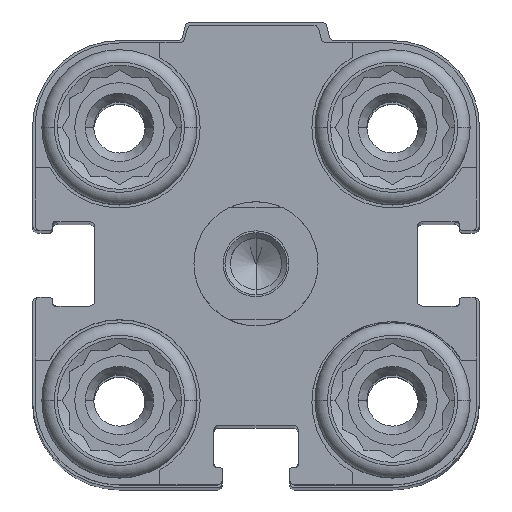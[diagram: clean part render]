
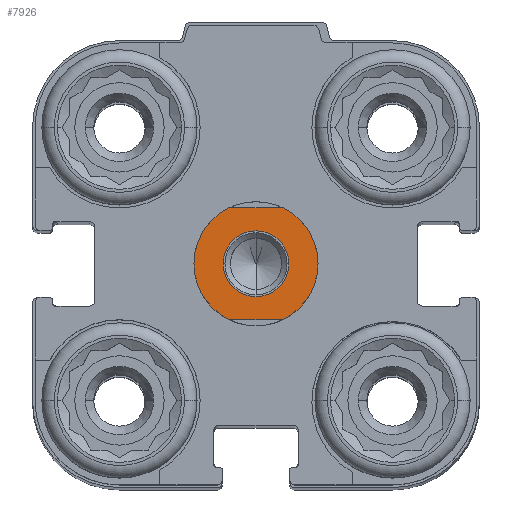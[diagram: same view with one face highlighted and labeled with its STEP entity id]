
A CAD part, top view. The second image highlights one B-rep face of the part: STEP entity #7926.
In plain terms, the highlighted planar face has unit normal (0, 0, 1).
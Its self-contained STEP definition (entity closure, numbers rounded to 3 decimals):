
#216 = CARTESIAN_POINT ( 'NONE',  ( -5., 0., 4.5 ) ) ;
#471 = DIRECTION ( 'NONE',  ( 0., 1., 0. ) ) ;
#1323 = AXIS2_PLACEMENT_3D ( 'NONE', #11532, #5801, #5710 ) ;
#1527 = DIRECTION ( 'NONE',  ( 0., 0., -1. ) ) ;
#1751 = CARTESIAN_POINT ( 'NONE',  ( 0., 0., 4.5 ) ) ;
#1976 = VERTEX_POINT ( 'NONE', #9900 ) ;
#2141 = ORIENTED_EDGE ( 'NONE', *, *, #11829, .F. ) ;
#2255 = ORIENTED_EDGE ( 'NONE', *, *, #16121, .F. ) ;
#2440 = DIRECTION ( 'NONE',  ( 0., 0., -1. ) ) ;
#2494 = CARTESIAN_POINT ( 'NONE',  ( 2.179, 4.5, 4.5 ) ) ;
#2539 = VECTOR ( 'NONE', #16942, 1000. ) ;
#3282 = VERTEX_POINT ( 'NONE', #3972 ) ;
#3403 = CARTESIAN_POINT ( 'NONE',  ( 0., 0., 4.5 ) ) ;
#3542 = AXIS2_PLACEMENT_3D ( 'NONE', #3403, #5908, #471 ) ;
#3760 = ORIENTED_EDGE ( 'NONE', *, *, #6103, .T. ) ;
#3765 = AXIS2_PLACEMENT_3D ( 'NONE', #14398, #12973, #18779 ) ;
#3972 = CARTESIAN_POINT ( 'NONE',  ( -2.179, -4.5, 4.5 ) ) ;
#4130 = ORIENTED_EDGE ( 'NONE', *, *, #18015, .F. ) ;
#4920 = CARTESIAN_POINT ( 'NONE',  ( -2.179, 4.5, 4.5 ) ) ;
#4981 = CIRCLE ( 'NONE', #1323, 5. ) ;
#5321 = CARTESIAN_POINT ( 'NONE',  ( 9., -4.5, 4.5 ) ) ;
#5516 = CARTESIAN_POINT ( 'NONE',  ( 2.179, -4.5, 4.5 ) ) ;
#5660 = ORIENTED_EDGE ( 'NONE', *, *, #16828, .F. ) ;
#5710 = DIRECTION ( 'NONE',  ( -1., 0., 0. ) ) ;
#5801 = DIRECTION ( 'NONE',  ( 0., 0., -1. ) ) ;
#5908 = DIRECTION ( 'NONE',  ( 0., 0., -1. ) ) ;
#5996 = CIRCLE ( 'NONE', #17566, 5. ) ;
#6103 = EDGE_CURVE ( 'NONE', #8180, #1976, #9454, .T. ) ;
#6249 = CIRCLE ( 'NONE', #6553, 5. ) ;
#6354 = ORIENTED_EDGE ( 'NONE', *, *, #15187, .F. ) ;
#6553 = AXIS2_PLACEMENT_3D ( 'NONE', #14609, #1527, #14329 ) ;
#7358 = EDGE_LOOP ( 'NONE', ( #3760, #13251 ) ) ;
#7524 = FACE_OUTER_BOUND ( 'NONE', #10046, .T. ) ;
#7720 = DIRECTION ( 'NONE',  ( -1., 0., 0. ) ) ;
#7926 = ADVANCED_FACE ( 'NONE', ( #7524, #8860 ), #16380, .F. ) ;
#8180 = VERTEX_POINT ( 'NONE', #9583 ) ;
#8860 = FACE_BOUND ( 'NONE', #7358, .T. ) ;
#9347 = DIRECTION ( 'NONE',  ( 1., 0., 0. ) ) ;
#9420 = DIRECTION ( 'NONE',  ( 0., 1., 0. ) ) ;
#9454 = CIRCLE ( 'NONE', #15843, 2.65 ) ;
#9583 = CARTESIAN_POINT ( 'NONE',  ( 0., 2.65, 4.5 ) ) ;
#9900 = CARTESIAN_POINT ( 'NONE',  ( 0., -2.65, 4.5 ) ) ;
#10046 = EDGE_LOOP ( 'NONE', ( #5660, #6354, #16142, #2141, #2255, #4130 ) ) ;
#10484 = VERTEX_POINT ( 'NONE', #16838 ) ;
#10561 = EDGE_CURVE ( 'NONE', #1976, #8180, #17751, .T. ) ;
#10798 = VECTOR ( 'NONE', #9347, 1000. ) ;
#11532 = CARTESIAN_POINT ( 'NONE',  ( 0., 0., 4.5 ) ) ;
#11829 = EDGE_CURVE ( 'NONE', #18153, #3282, #18283, .T. ) ;
#11879 = DIRECTION ( 'NONE',  ( 0., 0., -1. ) ) ;
#12028 = CARTESIAN_POINT ( 'NONE',  ( 0., 0., 4.5 ) ) ;
#12478 = CARTESIAN_POINT ( 'NONE',  ( 0., 0., 4.5 ) ) ;
#12587 = CARTESIAN_POINT ( 'NONE',  ( -9., 4.5, 4.5 ) ) ;
#12973 = DIRECTION ( 'NONE',  ( 0., 0., -1. ) ) ;
#13251 = ORIENTED_EDGE ( 'NONE', *, *, #10561, .T. ) ;
#14143 = VERTEX_POINT ( 'NONE', #4920 ) ;
#14329 = DIRECTION ( 'NONE',  ( -1., 0., 0. ) ) ;
#14398 = CARTESIAN_POINT ( 'NONE',  ( 0., 0., 4.5 ) ) ;
#14609 = CARTESIAN_POINT ( 'NONE',  ( 0., 0., 4.5 ) ) ;
#15074 = DIRECTION ( 'NONE',  ( 0., 0., -1. ) ) ;
#15187 = EDGE_CURVE ( 'NONE', #17359, #14143, #4981, .T. ) ;
#15351 = LINE ( 'NONE', #12587, #10798 ) ;
#15843 = AXIS2_PLACEMENT_3D ( 'NONE', #1751, #11879, #17485 ) ;
#16011 = VERTEX_POINT ( 'NONE', #2494 ) ;
#16121 = EDGE_CURVE ( 'NONE', #10484, #18153, #6249, .T. ) ;
#16142 = ORIENTED_EDGE ( 'NONE', *, *, #16643, .F. ) ;
#16247 = CIRCLE ( 'NONE', #3765, 5. ) ;
#16380 = PLANE ( 'NONE',  #3542 ) ;
#16643 = EDGE_CURVE ( 'NONE', #3282, #17359, #16247, .T. ) ;
#16828 = EDGE_CURVE ( 'NONE', #14143, #16011, #15351, .T. ) ;
#16838 = CARTESIAN_POINT ( 'NONE',  ( 5., 0., 4.5 ) ) ;
#16942 = DIRECTION ( 'NONE',  ( -1., 0., 0. ) ) ;
#17157 = AXIS2_PLACEMENT_3D ( 'NONE', #12478, #2440, #9420 ) ;
#17359 = VERTEX_POINT ( 'NONE', #216 ) ;
#17485 = DIRECTION ( 'NONE',  ( 0., 1., 0. ) ) ;
#17566 = AXIS2_PLACEMENT_3D ( 'NONE', #12028, #15074, #7720 ) ;
#17751 = CIRCLE ( 'NONE', #17157, 2.65 ) ;
#18015 = EDGE_CURVE ( 'NONE', #16011, #10484, #5996, .T. ) ;
#18153 = VERTEX_POINT ( 'NONE', #5516 ) ;
#18283 = LINE ( 'NONE', #5321, #2539 ) ;
#18779 = DIRECTION ( 'NONE',  ( -1., 0., 0. ) ) ;
